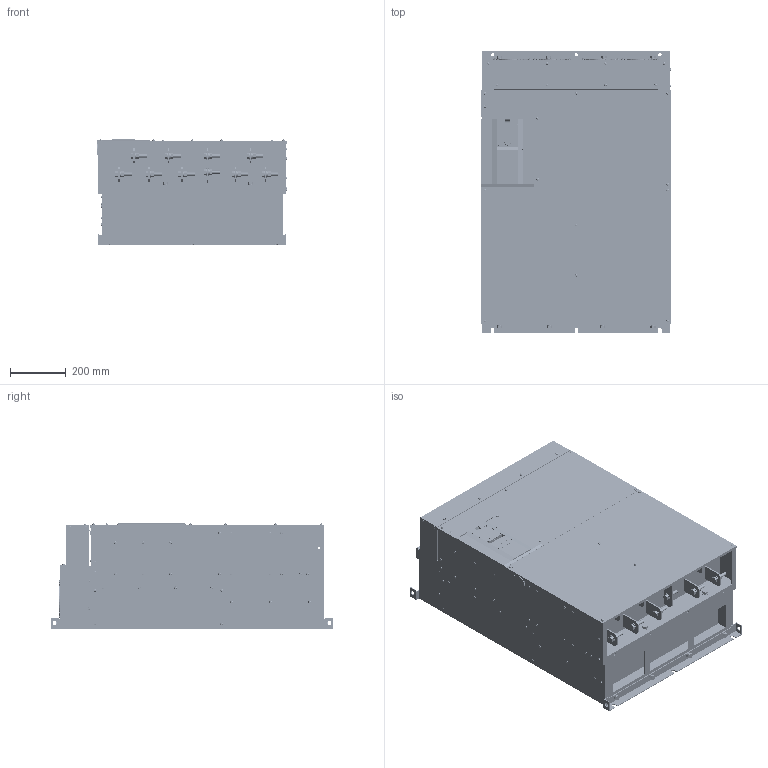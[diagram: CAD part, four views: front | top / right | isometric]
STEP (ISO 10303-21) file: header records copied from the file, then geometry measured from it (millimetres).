
FILE_DESCRIPTION((''),'2;1');
FILE_NAME('3D-INV-A8-02_20_ASM','2014-01-24T',('UJ56049'),(''),'PRO/ENGINEER BY PARAMETRIC TECHNOLOGY CORPORATION, 2011490','PRO/ENGINEER BY PARAMETRIC TECHNOLOGY CORPORATION, 2011490','');
FILE_SCHEMA(('CONFIG_CONTROL_DESIGN'));
Products named in the file (38): 3D-BASE-A8-02_20; 3D-WAKU-A8-02_20_ASM; 3D-ASHI-UPR-A8-02_20; 3D-BOLT-SW-PW-M10X25_; 3D-BOLT-ASHI-UPR-A8-02_20_ASM; 3D-ASHI-LWR-A8-02_20; 3D-BOLT-ASHI-LWR-A8-02_20_ASM; 3D-BUSH-A8; 3D-BUSH-A8_ASM; 3D-TE_NEJI-M4X8_; 3D-TE_COV-R1S1_; 3D-TE_ASSY-A8-R1S1_ASM; 3D-TA-A8; 3D-A8-TA_ASM; 3D-TE_NEJI_ASSY-A8-02_20; 3D-TE_NEJI_ASSY-A8-02_20_ASM; 3D-TE-BOLT-A8-02_20_ASM; 3D-CA_COVER-A8; 3D-DU_ASSY-A8; 3D-IF_COV-A80; 3D-SC-PN-BD-M4X10-BZN-A8; 3D-CA_COV-A8_ASM; 3D-GANE-ASSY-A8-02_20; 3D-FAN-9L-A8-02_20; 3D-SWPWPNAM4X60-A8; 3D-FAN_BOLT1-A8-02_20; 3D-FAN_BOLT1-A8-02_20_ASM; 3D-FAN-9L-A8-02_20_ASM; 3D-FAN_ASSY-A8-02_20_ASM; 3D-SWPWPNAM5X12_S902N035-A8; 3D-BOLT-FAN_GANE-A8-02_20_ASM; 3D-COV_FAN-A8-02_20; 3D-SC-SW-PW-P-M5X12_; 3D-BOLT-COV_FAN-A8-02_20_ASM; 3D-COV_LWR-A8-02_20; 3D-BOLT-STE-COV-LWR-A8-02_20; 3D-BOLT-COV-LWR-A8-02_20_ASM; 3D-INV-A8-02_20_ASM
Assembly tree (86 placements, depth 5):
  3D-INV-A8-02_20_ASM
    3D-WAKU-A8-02_20_ASM
      3D-BASE-A8-02_20
    3D-ASHI-UPR-A8-02_20
    3D-BOLT-ASHI-UPR-A8-02_20_ASM
      3D-BOLT-SW-PW-M10X25_  x4
    3D-ASHI-LWR-A8-02_20
    3D-BOLT-ASHI-LWR-A8-02_20_ASM
      3D-BOLT-SW-PW-M10X25_  x4
    3D-BUSH-A8_ASM
      3D-BUSH-A8
    3D-BOLT-SW-PW-M10X25_  x2
    3D-TE_ASSY-A8-R1S1_ASM
      3D-TE_NEJI-M4X8_  x4
      3D-TE_COV-R1S1_
    3D-A8-TA_ASM
      3D-TA-A8
    3D-TE-BOLT-A8-02_20_ASM
      3D-TE_NEJI_ASSY-A8-02_20_ASM  x10
        3D-TE_NEJI_ASSY-A8-02_20
    3D-CA_COV-A8_ASM
      3D-CA_COVER-A8
      3D-DU_ASSY-A8
      3D-IF_COV-A80
      3D-SC-PN-BD-M4X10-BZN-A8  x2
    3D-FAN_ASSY-A8-02_20_ASM
      3D-GANE-ASSY-A8-02_20
      3D-FAN-9L-A8-02_20_ASM
        3D-FAN-9L-A8-02_20  x4
        3D-FAN_BOLT1-A8-02_20_ASM  x4
          3D-SWPWPNAM4X60-A8
          3D-FAN_BOLT1-A8-02_20
    3D-BOLT-FAN_GANE-A8-02_20_ASM
      3D-SWPWPNAM5X12_S902N035-A8  x12
    3D-COV_FAN-A8-02_20
    3D-BOLT-COV_FAN-A8-02_20_ASM
      3D-SC-SW-PW-P-M5X12_  x8
    3D-COV_LWR-A8-02_20
    3D-BOLT-COV-LWR-A8-02_20_ASM
      3D-BOLT-STE-COV-LWR-A8-02_20
Bounding box: 681.6 x 1010 x 381 mm (x, y, z)
Volume: 197918611.8 mm3; surface area: 5553213.9 mm2
Topology: 102 solids, 102 shells, 6180 faces, 16238 edges, 10065 vertices
Faces by surface type: plane 3900, cylinder 1628, torus 358, cone 148, sphere 146
Entity records: 143549 total; most frequent: DIRECTION 25680, CARTESIAN_POINT 24554, ORIENTED_EDGE 24400, EDGE_CURVE 12200, AXIS2_PLACEMENT_3D 8912, VECTOR 7856, LINE 7856, VERTEX_POINT 7596
